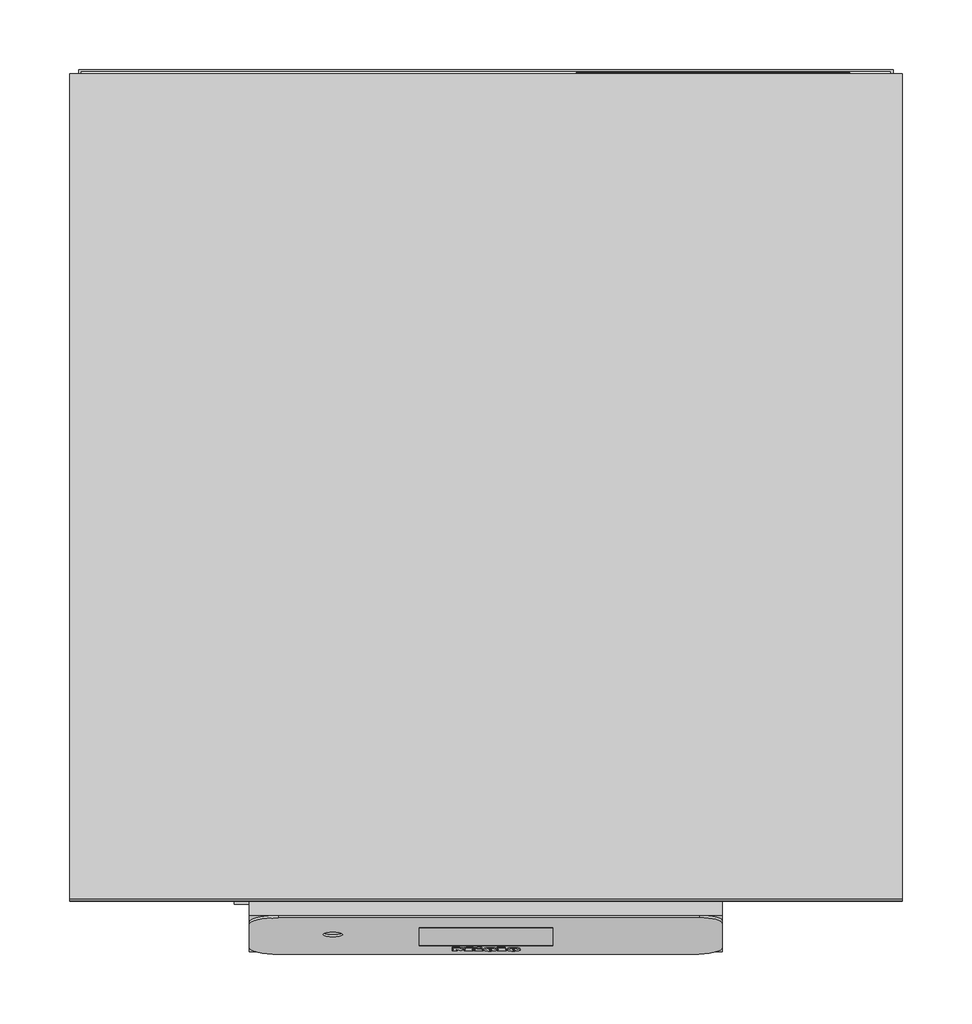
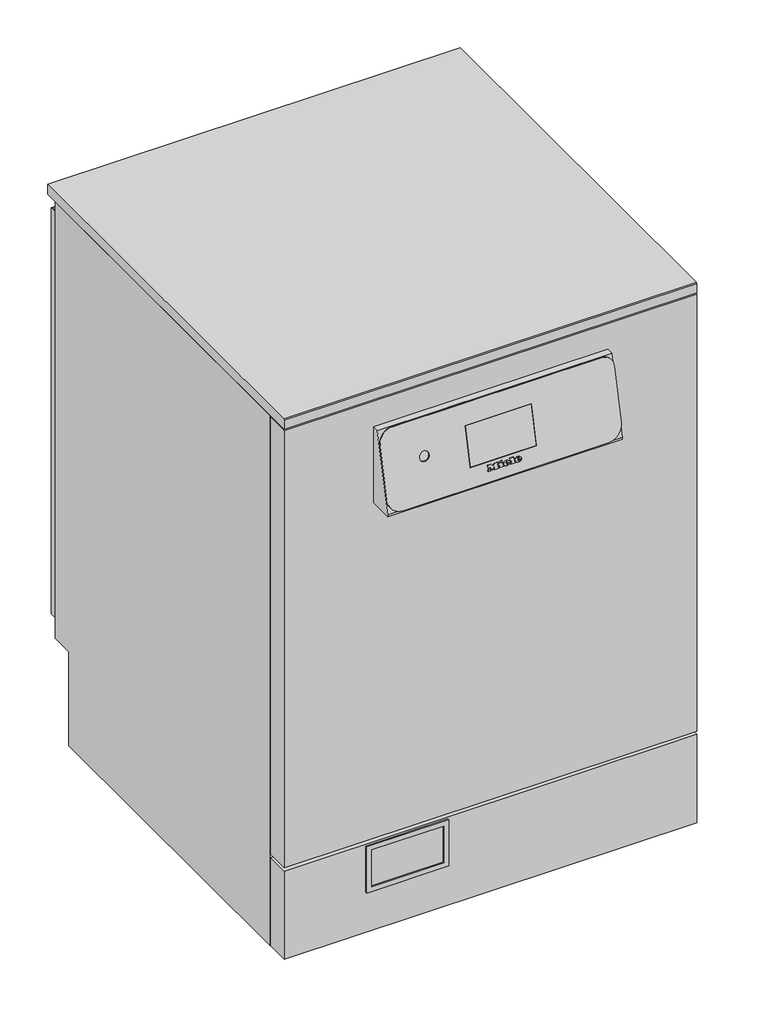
# Not in any storey: 1 proxy.
"""IFC4 building model written with IfcOpenShell, lengths in millimetres."""

from ifc_helpers import new_model, si_unit, origin, place, context, project, spatial, transform, mapped, element, save
from components import specialty_equipment_543192e9

model = new_model("IFC4")

# Units and contexts
model_context = context("Model", 3, world=origin())
ifc_project = project(units=[si_unit("LENGTHUNIT", "METRE", prefix="MILLI")], contexts=[model_context])

# Site, building
site = spatial("IfcSite", under=ifc_project)
building = spatial("IfcBuilding", under=site)

# Proxy
placement = place(None, origin())
specialty_equipment_shape = specialty_equipment_543192e9(model_context)
element("IfcBuildingElementProxy", 1, Name="12065720_NWE_PFD404_SST : 61040410_NWE_12065720_PFD404_SST", ObjectType="12065720_NWE_PFD404_SST : 61040410_NWE_12065720_PFD404_SST", at=placement, inside=building, context=model_context, shape_type="MappedRepresentation", body=[
    mapped(specialty_equipment_shape, transform((0.0, 0.0, 0.0), x_axis=(1.0, 0.0, 0.0), y_axis=(0.0, 1.0, 0.0), z_axis=(0.0, 0.0, 1.0))),
])

save(model, "model.ifc")
